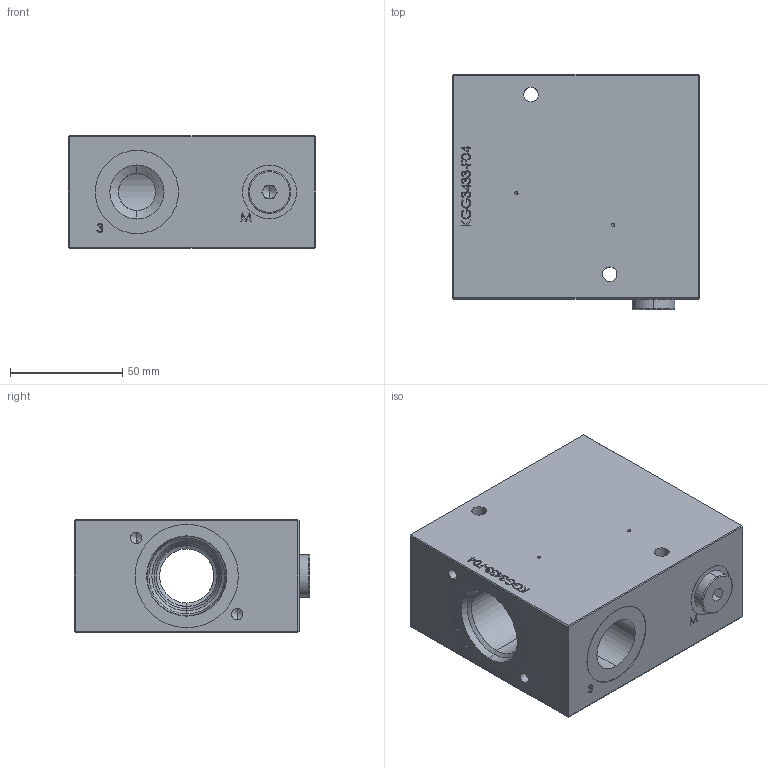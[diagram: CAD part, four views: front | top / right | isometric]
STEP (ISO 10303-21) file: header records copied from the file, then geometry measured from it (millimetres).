
FILE_DESCRIPTION (( 'STEP AP214' ), '1' );
FILE_NAME ('KGG3433-F04.STEP', '2020-05-08T08:20:22', ( '' ), ( '' ), 'SwSTEP 2.0', 'SolidWorks 2018', '' );
FILE_SCHEMA (( 'AUTOMOTIVE_DESIGN' ));
Length unit declared in the file: millimetre
Products named in the file (1): KGG3433-F04
Bounding box: 110 x 104.7 x 50 mm (x, y, z)
Volume: 446150.1 mm3; surface area: 60561.8 mm2
Topology: 2 solids, 2 shells, 334 faces, 841 edges, 531 vertices
Faces by surface type: plane 161, bspline 89, cylinder 48, cone 28, torus 8
Entity records: 18809 total; most frequent: CARTESIAN_POINT 7655, ORIENTED_EDGE 1662, DIRECTION 1261, EDGE_CURVE 831, VERTEX_POINT 531, LINE 525, VECTOR 525, EDGE_LOOP 376
